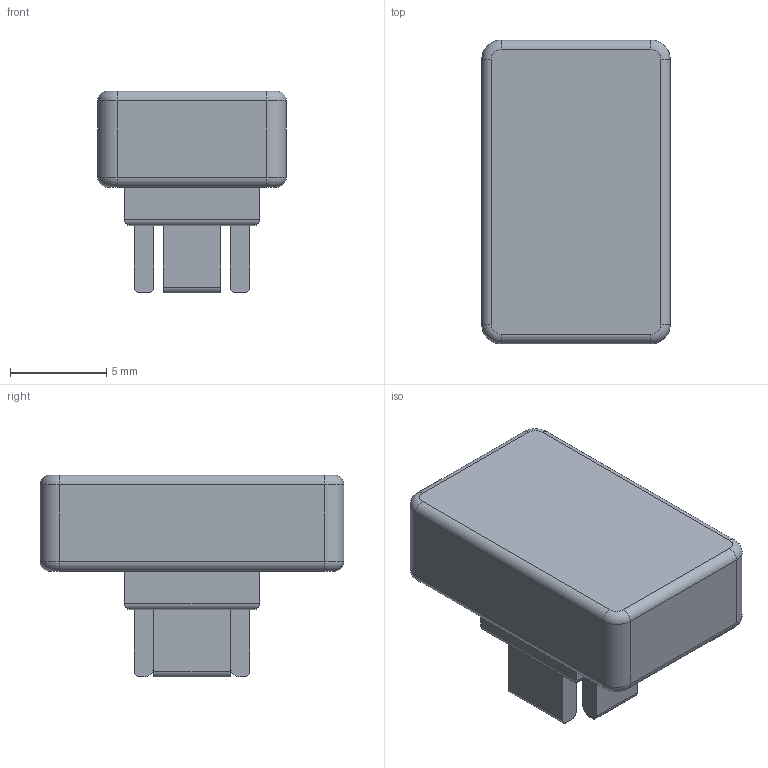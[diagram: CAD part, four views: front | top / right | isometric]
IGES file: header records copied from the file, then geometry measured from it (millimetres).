
Global section: file name: No Iges File Name specified; native system: Autodesk Inventor 2009; preprocessor: AutoDesk Inventor Iges Exporter R2009; author: hide; date: 20090826.140100; units: millimetre
Bounding box: 9.8 x 15.8 x 10.5 mm (x, y, z)
Volume: 772.2 mm3; surface area: 874 mm2
Topology: 1 solids, 1 shells, 86 faces, 250 edges, 216 vertices
Faces by surface type: plane 44, cylinder 34, torus 8
